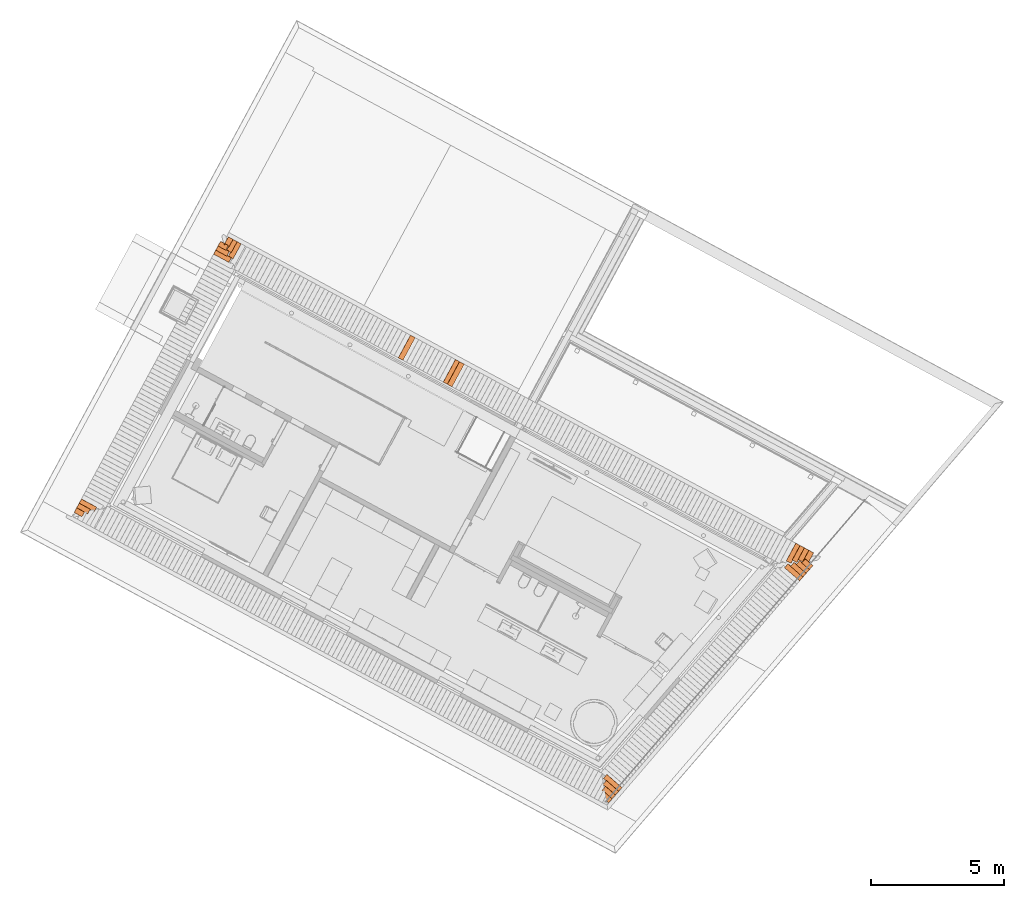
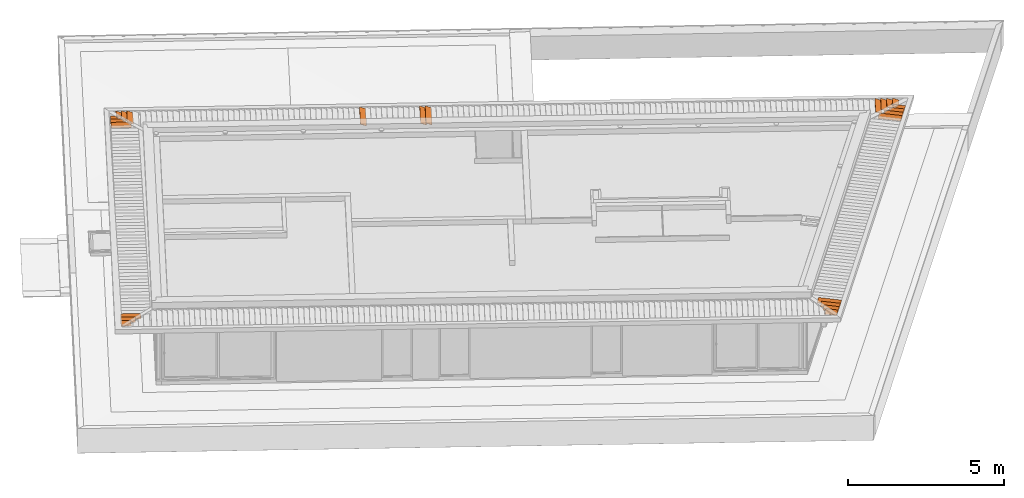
# One storey, part 38 of 48: 24 proxies.
"""IFC2X3 building model written with IfcOpenShell, lengths in metres."""

from ifc_helpers import new_model, entity, si_unit, converted_unit, derived_unit, money_unit, direction, frame, origin_with_axes, place, context, subcontext, project, spatial, faceted_brep, source, transform, mapped, material, type_object, element, save


model = new_model("IFC2X3")

# Units and contexts
model_context = context("Model", 3, precision=1e-05, world=origin_with_axes(), true_north=direction((0.0, 1.0)))
body_context = subcontext(model_context, "Body", "Model", "MODEL_VIEW")
ifc_project = project(units=[si_unit("LENGTHUNIT", "METRE"), si_unit("AREAUNIT", "SQUARE_METRE"), si_unit("VOLUMEUNIT", "CUBIC_METRE"), converted_unit("PLANEANGLEUNIT", "DEGREE", entity("IfcPlaneAngleMeasure", 0.0174532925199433), si_unit("PLANEANGLEUNIT", "RADIAN"), dimensions=[0, 0, 0, 0, 0, 0, 0]), money_unit("EUR"), converted_unit("TIMEUNIT", "Year", entity("IfcTimeMeasure", 31556926.0), si_unit("TIMEUNIT", "SECOND"), dimensions=[0, 0, 1, 0, 0, 0, 0]), si_unit("MASSUNIT", "GRAM", prefix="KILO"), si_unit("THERMODYNAMICTEMPERATUREUNIT", "DEGREE_CELSIUS"), si_unit("LUMINOUSINTENSITYUNIT", "LUMEN"), si_unit("ENERGYUNIT", "JOULE", prefix="MEGA"), derived_unit("THERMALCONDUCTANCEUNIT", [(si_unit("POWERUNIT", "WATT"), 1), (si_unit("LENGTHUNIT", "METRE"), -1), (si_unit("THERMODYNAMICTEMPERATUREUNIT", "KELVIN"), -1)]), derived_unit("SPECIFICHEATCAPACITYUNIT", [(si_unit("ENERGYUNIT", "JOULE"), 1), (si_unit("MASSUNIT", "GRAM", prefix="KILO"), -1), (si_unit("THERMODYNAMICTEMPERATUREUNIT", "KELVIN"), -1)]), derived_unit("MASSDENSITYUNIT", [(si_unit("MASSUNIT", "GRAM", prefix="KILO"), 1), (si_unit("VOLUMEUNIT", "CUBIC_METRE"), -1)])], contexts=[model_context])

# Site, building, storey
site_placement = place(None, frame((-3.949935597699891, 1.740105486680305, 0.0), z_axis=(0.0, 0.0, 1.0), x_axis=(0.8799804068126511, -0.475009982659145, 0.0)))
site = spatial("IfcSite", under=ifc_project, at=site_placement, Name="Gelände", CompositionType="ELEMENT")
building_placement = place(site_placement, origin_with_axes())
building = spatial("IfcBuilding", under=site, at=building_placement, Name="Gebäude", CompositionType="ELEMENT")
storey_placement = place(building_placement, frame((0.0, 0.0, 4.55), z_axis=(0.0, 0.0, 1.0), x_axis=(1.0, 0.0, 0.0)))
storey = spatial("IfcBuildingStorey", under=building, at=storey_placement, Name="Staffelgeschoss", CompositionType="ELEMENT", Elevation=4.55)

# Proxies
ifc_material = material(Name="ALLGEMEIN - BAUTEIL")
building_element_proxy_type = type_object("IfcBuildingElementProxyType", Name="ALLGEMEIN - BAUTEIL", PredefinedType="NOTDEFINED")
shared_shape_1 = source(origin_with_axes(), body_context, "Body", "Brep", [
    faceted_brep([(0.2148913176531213, -0.9669323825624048, 0.0), (0.0, -0.9669000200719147, 0.0), (0.0, 0.0, 0.0), (0.2150369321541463, -3.238441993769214e-05, 0.0), (0.2148913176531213, -0.9669323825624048, 0.009999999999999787), (0.0, -0.9669000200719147, 0.009999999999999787), (0.0, 0.0, 0.009999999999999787), (0.2150369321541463, -3.238441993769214e-05, 0.009999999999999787)], [[[0, 1, 2, 3]], [[1, 0, 4, 5]], [[5, 6, 2, 1]], [[6, 7, 3, 2]], [[4, 0, 3, 7]], [[6, 5, 4, 7]]]),
])
for number, where, z_axis, x_axis, name in (
    (1, (12.03914167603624, 12.18825268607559, 2.903466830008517), (0.3575193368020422, 0.0, 0.933905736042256), (0.933905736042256, 0.0, -0.3575193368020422), "Morph-037"),
    (2, (13.96368748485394, 12.18825268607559, 2.903466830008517), (0.3575193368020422, 0.0, 0.933905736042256), (0.933905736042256, 0.0, -0.3575193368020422), "Morph-037"),
    (3, (14.13864619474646, 12.18825268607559, 2.903466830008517), (0.3575193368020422, 0.0, 0.933905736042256), (0.933905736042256, 0.0, -0.3575193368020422), "Morph-037"),
):
    element("IfcBuildingElementProxy", number, at=place(storey_placement, frame(where, z_axis=z_axis, x_axis=x_axis)), inside=storey, type_object=building_element_proxy_type, material=ifc_material, Name=name, context=body_context, shape_type="MappedRepresentation", body=[
        mapped(shared_shape_1, transform((0.0, 0.0, 0.0))),
    ])
shared_shape_2 = source(origin_with_axes(), body_context, "Body", "Brep", [
    faceted_brep([(0.0, -0.9669000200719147, 0.0), (-0.0001004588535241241, -0.7460259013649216, -3.106447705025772e-05), (0.2149364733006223, -0.7460582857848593, -3.106447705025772e-05), (0.2148913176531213, -0.9669323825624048, 0.0), (0.0, -0.9669000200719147, 0.009999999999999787), (-0.0001004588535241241, -0.7460259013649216, 0.00996893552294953), (-8.335318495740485e-05, -0.6324419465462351, -3.106447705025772e-05), (0.214953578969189, -0.6324743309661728, -3.106447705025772e-05), (0.2148913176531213, -0.9669323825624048, 0.009999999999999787), (0.214953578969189, -0.6324743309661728, 0.00996893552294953), (0.2149364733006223, -0.7460582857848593, 0.00996893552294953), (-8.335318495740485e-05, -0.6324419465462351, 0.00996893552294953)], [[[0, 1, 2, 3]], [[4, 5, 1, 0]], [[1, 6, 7, 2]], [[8, 3, 2, 7, 9, 10]], [[3, 8, 4, 0]], [[5, 4, 8, 10]], [[1, 5, 11, 6]], [[6, 11, 9, 7]], [[11, 5, 10, 9]]]),
])
for number, where, z_axis, x_axis, name in (
    (4, (4.242682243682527, 12.82080615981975, 2.903466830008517), (0.3575193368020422, 0.0, 0.933905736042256), (0.933905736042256, 0.0, -0.3575193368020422), "Morph-037"),
    (5, (5.033767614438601, 11.90422063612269, 2.903466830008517), (0.0, -0.3575193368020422, 0.933905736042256), (0.0, -0.933905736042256, -0.3575193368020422), "Morph-037"),
    (6, (5.03390938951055, 0.4981556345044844, 2.903466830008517), (0.0, -0.3575193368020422, 0.933905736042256), (0.0, -0.933905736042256, -0.3575193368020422), "Morph-037"),
):
    element("IfcBuildingElementProxy", number, at=place(storey_placement, frame(where, z_axis=z_axis, x_axis=x_axis)), inside=storey, type_object=building_element_proxy_type, material=ifc_material, Name=name, context=body_context, shape_type="MappedRepresentation", body=[
        mapped(shared_shape_2, transform((0.0, 0.0, 0.0))),
    ])
shared_shape_3 = source(origin_with_axes(), body_context, "Body", "Brep", [
    faceted_brep([(-1.412802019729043e-05, -1.11184161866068, 0.009994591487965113), (-7.71341312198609e-05, -0.5684486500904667, 0.009977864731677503), (-7.71341312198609e-05, -0.5684486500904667, -2.213526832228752e-05), (-1.412802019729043e-05, -1.11184161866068, -5.40851203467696e-06), (0.2148771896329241, -1.11187398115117, 0.009994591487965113), (0.2149711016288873, -0.4934235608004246, 0.009977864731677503), (-6.583052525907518e-05, -0.4933911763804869, 0.009977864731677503), (-6.583052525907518e-05, -0.4933911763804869, -2.213526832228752e-05), (0.2149711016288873, -0.4934235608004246, -2.213526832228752e-05), (0.2148771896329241, -1.11187398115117, -5.40851203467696e-06)], [[[0, 1, 2, 3]], [[1, 0, 4, 5, 6]], [[2, 1, 6, 7]], [[2, 7, 8, 9, 3]], [[9, 4, 0, 3]], [[4, 9, 8, 5]], [[7, 6, 5, 8]]]),
])
for number, where, z_axis, x_axis, name in (
    (7, (27.58384273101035, 0.6906086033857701, 2.903466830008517), (-0.07972357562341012, -0.3485171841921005, 0.933905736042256), (-0.2082525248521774, -0.9103904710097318, -0.3575193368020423), "Morph-037"),
    (8, (29.90126334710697, 11.28432835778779, 2.903466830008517), (-0.07787668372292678, -0.3489345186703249, 0.933905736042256), (-0.2034281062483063, -0.9114806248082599, -0.3575193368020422), "Morph-037"),
    (9, (28.7121744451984, 12.68195565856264, 2.903466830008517), (0.3575193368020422, 0.0, 0.933905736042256), (0.933905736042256, 0.0, -0.3575193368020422), "Morph-037"),
):
    element("IfcBuildingElementProxy", number, at=place(storey_placement, frame(where, z_axis=z_axis, x_axis=x_axis)), inside=storey, type_object=building_element_proxy_type, material=ifc_material, Name=name, context=body_context, shape_type="MappedRepresentation", body=[
        mapped(shared_shape_3, transform((0.0, 0.0, 0.0))),
    ])
shared_shape_4 = source(origin_with_axes(), body_context, "Body", "Brep", [
    faceted_brep([(-7.71341312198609e-05, -0.5684486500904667, -2.213526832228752e-05), (-6.583052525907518e-05, -0.4933911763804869, -2.213526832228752e-05), (0.2149711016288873, -0.4934235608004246, -2.213526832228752e-05), (0.2148913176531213, -0.9669323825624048, 0.0), (0.0, -0.9669000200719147, 0.0), (-7.71341312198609e-05, -0.5684486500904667, 0.009977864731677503), (-6.583052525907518e-05, -0.4933911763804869, 0.009977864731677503), (0.2149711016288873, -0.4934235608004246, 0.009977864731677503), (0.2148913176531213, -0.9669323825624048, 0.009999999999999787), (0.0, -0.9669000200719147, 0.009999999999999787)], [[[0, 1, 2, 3, 4]], [[0, 5, 6, 1]], [[1, 6, 7, 2]], [[8, 3, 2, 7]], [[3, 8, 9, 4]], [[9, 5, 0, 4]], [[5, 9, 8, 7, 6]]]),
])
for number, where, z_axis, x_axis, name in (
    (10, (4.420197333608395, 12.68172678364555, 2.903466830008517), (0.3575193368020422, 0.0, 0.933905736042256), (0.933905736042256, 0.0, -0.3575193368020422), "Morph-037"),
    (11, (5.033909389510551, 11.72668596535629, 2.903466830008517), (0.0, -0.3575193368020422, 0.933905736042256), (0.0, -0.933905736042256, -0.3575193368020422), "Morph-037"),
    (12, (5.03390938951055, 0.6952686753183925, 2.903466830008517), (0.0, -0.3575193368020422, 0.933905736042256), (0.0, -0.933905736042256, -0.3575193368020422), "Morph-037"),
):
    element("IfcBuildingElementProxy", number, at=place(storey_placement, frame(where, z_axis=z_axis, x_axis=x_axis)), inside=storey, type_object=building_element_proxy_type, material=ifc_material, Name=name, context=body_context, shape_type="MappedRepresentation", body=[
        mapped(shared_shape_4, transform((0.0, 0.0, 0.0))),
    ])
shared_shape_5 = source(origin_with_axes(), body_context, "Body", "Brep", [
    faceted_brep([(-0.0001004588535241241, -0.7460259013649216, 0.00996893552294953), (-0.0001004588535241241, -0.7460259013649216, -3.106447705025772e-05), (-2.162352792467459e-05, -1.131525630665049, -8.277954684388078e-06), (-2.162352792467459e-05, -1.131525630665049, 0.0099917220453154), (-8.335318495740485e-05, -0.6324419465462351, 0.00996893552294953), (-8.335318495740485e-05, -0.6324419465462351, -3.106447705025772e-05), (0.2149364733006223, -0.7460582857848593, -3.106447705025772e-05), (0.2148696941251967, -1.131557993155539, -8.277954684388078e-06), (0.2148696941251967, -1.131557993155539, 0.0099917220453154), (0.2149364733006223, -0.7460582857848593, 0.00996893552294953), (0.214953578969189, -0.6324743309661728, 0.00996893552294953), (0.214953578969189, -0.6324743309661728, -3.106447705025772e-05)], [[[0, 1, 2, 3]], [[1, 0, 4, 5]], [[2, 1, 6, 7]], [[7, 8, 3, 2]], [[0, 3, 8, 9]], [[4, 0, 9, 10]], [[5, 4, 10, 11]], [[1, 5, 11, 6]], [[8, 7, 6, 11, 10, 9]]]),
])
for number, where, z_axis, x_axis, name in (
    (13, (27.67779845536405, 0.4779061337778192, 2.903466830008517), (-0.07972357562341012, -0.3485171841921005, 0.933905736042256), (-0.2082525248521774, -0.9103904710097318, -0.3575193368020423), "Morph-037"),
    (14, (30.07800259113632, 11.43772505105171, 2.903466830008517), (-0.07787668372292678, -0.3489345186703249, 0.933905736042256), (-0.2034281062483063, -0.9114806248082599, -0.3575193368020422), "Morph-037"),
    (15, (28.89856990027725, 12.82097635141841, 2.903466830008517), (0.3575193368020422, 0.0, 0.933905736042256), (0.933905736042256, 0.0, -0.3575193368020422), "Morph-037"),
):
    element("IfcBuildingElementProxy", number, at=place(storey_placement, frame(where, z_axis=z_axis, x_axis=x_axis)), inside=storey, type_object=building_element_proxy_type, material=ifc_material, Name=name, context=body_context, shape_type="MappedRepresentation", body=[
        mapped(shared_shape_5, transform((0.0, 0.0, 0.0))),
    ])
shared_shape_6 = source(origin_with_axes(), body_context, "Body", "Brep", [
    faceted_brep([(-0.0001004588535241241, -0.7460259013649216, 0.00996893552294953), (-0.0001004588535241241, -0.7460259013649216, -3.106447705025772e-05), (-2.162352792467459e-05, -1.131525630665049, -8.277954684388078e-06), (-2.162352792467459e-05, -1.131525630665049, 0.0099917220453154), (-8.335318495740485e-05, -0.6324419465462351, 0.00996893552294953), (-8.335318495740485e-05, -0.6324419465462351, -3.106447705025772e-05), (0.2149364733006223, -0.7460582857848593, -3.106447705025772e-05), (0.2148847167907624, -1.03180546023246, -8.277954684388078e-06), (-6.60086235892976e-06, -1.03177309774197, -8.277954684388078e-06), (-6.60086235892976e-06, -1.03177309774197, 0.0099917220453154), (0.2148847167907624, -1.03180546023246, 0.0099917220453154), (0.2149364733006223, -0.7460582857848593, 0.00996893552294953), (0.214953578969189, -0.6324743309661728, 0.00996893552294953), (0.214953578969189, -0.6324743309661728, -3.106447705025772e-05)], [[[0, 1, 2, 3]], [[1, 0, 4, 5]], [[2, 1, 6, 7, 8]], [[3, 2, 8, 9]], [[0, 3, 9, 10, 11]], [[4, 0, 11, 12]], [[5, 4, 12, 13]], [[1, 5, 13, 6]], [[11, 10, 7, 6, 13, 12]], [[9, 8, 7, 10]]]),
])
for number, where, z_axis, x_axis, name in (
    (16, (30.11838077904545, 11.61850655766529, 2.903466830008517), (-0.07787668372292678, -0.3489345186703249, 0.933905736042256), (-0.2034281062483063, -0.9114806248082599, -0.3575193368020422), "Morph-037"),
    (17, (27.634997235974, 0.2909363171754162, 2.903466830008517), (-0.07972357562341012, -0.3485171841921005, 0.933905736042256), (-0.2082525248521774, -0.9103904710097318, -0.3575193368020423), "Morph-037"),
    (18, (29.09037619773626, 12.82094542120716, 2.903466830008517), (0.3575193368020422, 0.0, 0.933905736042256), (0.933905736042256, 0.0, -0.3575193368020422), "Morph-037"),
):
    element("IfcBuildingElementProxy", number, at=place(storey_placement, frame(where, z_axis=z_axis, x_axis=x_axis)), inside=storey, type_object=building_element_proxy_type, material=ifc_material, Name=name, context=body_context, shape_type="MappedRepresentation", body=[
        mapped(shared_shape_6, transform((0.0, 0.0, 0.0))),
    ])
shared_shape_7 = source(origin_with_axes(), body_context, "Body", "Brep", [
    faceted_brep([(0.0, -0.9669000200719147, 0.0), (-5.340442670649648e-05, -0.3143936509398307, -1.305102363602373e-05), (0.2149835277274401, -0.3144260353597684, -1.305102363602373e-05), (0.2148913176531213, -0.9669323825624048, 0.0), (0.0, -0.9669000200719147, 0.009999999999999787), (-5.340442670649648e-05, -0.3143936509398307, 0.00998694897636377), (0.2149835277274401, -0.3144260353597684, 0.00998694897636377), (0.2148913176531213, -0.9669323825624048, 0.009999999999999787)], [[[0, 1, 2, 3]], [[4, 5, 1, 0]], [[1, 5, 6, 2]], [[7, 3, 2, 6]], [[0, 3, 7, 4]], [[5, 4, 7, 6]]]),
])
for number, where, z_axis, x_axis, name in (
    (19, (4.592027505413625, 12.50270094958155, 2.903466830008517), (0.3575193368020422, 0.0, 0.933905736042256), (0.933905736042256, 0.0, -0.3575193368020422), "Morph-037"),
    (20, (5.033951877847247, 11.55482755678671, 2.903466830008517), (0.0, -0.3575193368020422, 0.933905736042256), (0.0, -0.933905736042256, -0.3575193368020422), "Morph-037"),
    (21, (5.033951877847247, 0.8765738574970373, 2.903466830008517), (0.0, -0.3575193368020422, 0.933905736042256), (0.0, -0.933905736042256, -0.3575193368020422), "Morph-037"),
):
    element("IfcBuildingElementProxy", number, at=place(storey_placement, frame(where, z_axis=z_axis, x_axis=x_axis)), inside=storey, type_object=building_element_proxy_type, material=ifc_material, Name=name, context=body_context, shape_type="MappedRepresentation", body=[
        mapped(shared_shape_7, transform((0.0, 0.0, 0.0))),
    ])
shared_shape_8 = source(origin_with_axes(), body_context, "Body", "Brep", [
    faceted_brep([(-1.195617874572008e-05, -1.069461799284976, -4.577084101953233e-06), (-5.340442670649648e-05, -0.3143936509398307, -1.305102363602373e-05), (0.2149835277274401, -0.3144260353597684, -1.305102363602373e-05), (0.2148793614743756, -1.069494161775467, -4.577084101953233e-06), (-1.195617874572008e-05, -1.069461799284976, 0.009995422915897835), (-5.340442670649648e-05, -0.3143936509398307, 0.00998694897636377), (0.2149835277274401, -0.3144260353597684, 0.00998694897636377), (0.2148793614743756, -1.069494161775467, 0.009995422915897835)], [[[0, 1, 2, 3]], [[4, 5, 1, 0]], [[1, 5, 6, 2]], [[7, 3, 2, 6]], [[0, 3, 7, 4]], [[5, 4, 7, 6]]]),
])
for number, where, z_axis, x_axis, name in (
    (22, (27.45032114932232, 0.9094916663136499, 2.903466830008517), (-0.07972357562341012, -0.3485171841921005, 0.933905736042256), (-0.2082525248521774, -0.9103904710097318, -0.3575193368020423), "Morph-037"),
    (23, (29.68516170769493, 11.13794960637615, 2.903466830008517), (-0.07787668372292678, -0.3489345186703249, 0.933905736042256), (-0.2034281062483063, -0.9114806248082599, -0.3575193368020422), "Morph-037"),
    (24, (28.52857684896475, 12.50298713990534, 2.903466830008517), (0.3575193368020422, 0.0, 0.933905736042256), (0.933905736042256, 0.0, -0.3575193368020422), "Morph-037"),
):
    element("IfcBuildingElementProxy", number, at=place(storey_placement, frame(where, z_axis=z_axis, x_axis=x_axis)), inside=storey, type_object=building_element_proxy_type, material=ifc_material, Name=name, context=body_context, shape_type="MappedRepresentation", body=[
        mapped(shared_shape_8, transform((0.0, 0.0, 0.0))),
    ])

save(model, "model.ifc")
